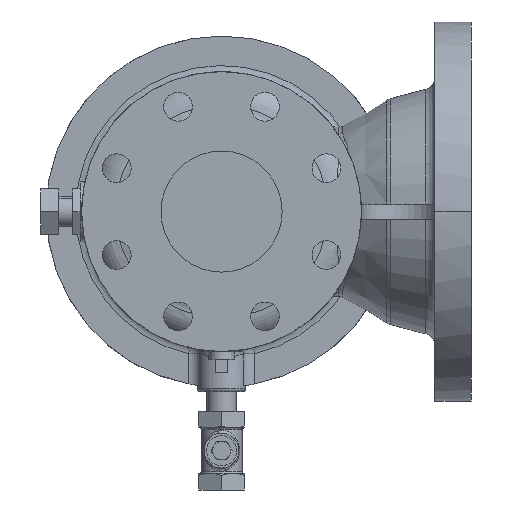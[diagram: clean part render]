
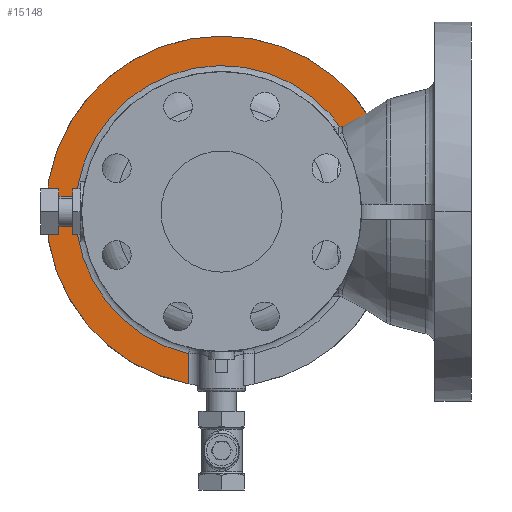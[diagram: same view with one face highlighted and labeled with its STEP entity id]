
A CAD part, front view. The second image highlights one B-rep face of the part: STEP entity #15148.
In plain terms, the highlighted planar face has unit normal (0, -1, 0).
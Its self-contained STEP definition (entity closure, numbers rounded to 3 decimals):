
#49 = AXIS2_PLACEMENT_3D ( 'NONE', #8849, #1178, #7612 ) ;
#331 = PLANE ( 'NONE',  #8434 ) ;
#812 = CARTESIAN_POINT ( 'NONE',  ( 96.37, 83., 5. ) ) ;
#855 = CIRCLE ( 'NONE', #49, 96.5 ) ;
#999 = EDGE_CURVE ( 'NONE', #11247, #13682, #2604, .T. ) ;
#1178 = DIRECTION ( 'NONE',  ( 0., 1., 0. ) ) ;
#1321 = VERTEX_POINT ( 'NONE', #812 ) ;
#1697 = CARTESIAN_POINT ( 'NONE',  ( -21.817, 83., -94.001 ) ) ;
#2604 = CIRCLE ( 'NONE', #6738, 116. ) ;
#2682 = ORIENTED_EDGE ( 'NONE', *, *, #8877, .F. ) ;
#2783 = VERTEX_POINT ( 'NONE', #3594 ) ;
#3211 = AXIS2_PLACEMENT_3D ( 'NONE', #6312, #15087, #11284 ) ;
#3594 = CARTESIAN_POINT ( 'NONE',  ( 115.892, 83., 5. ) ) ;
#4242 = ORIENTED_EDGE ( 'NONE', *, *, #8754, .F. ) ;
#4257 = VECTOR ( 'NONE', #13646, 1000. ) ;
#4550 = LINE ( 'NONE', #9850, #4257 ) ;
#4919 = ORIENTED_EDGE ( 'NONE', *, *, #6665, .T. ) ;
#6186 = CARTESIAN_POINT ( 'NONE',  ( 0., 83., 0. ) ) ;
#6312 = CARTESIAN_POINT ( 'NONE',  ( 0., 83., 0. ) ) ;
#6665 = EDGE_CURVE ( 'NONE', #12814, #1321, #855, .T. ) ;
#6692 = FACE_OUTER_BOUND ( 'NONE', #9704, .T. ) ;
#6738 = AXIS2_PLACEMENT_3D ( 'NONE', #6186, #13631, #9746 ) ;
#7144 = LINE ( 'NONE', #12199, #10858 ) ;
#7261 = ORIENTED_EDGE ( 'NONE', *, *, #10996, .T. ) ;
#7612 = DIRECTION ( 'NONE',  ( 0., 0., -1. ) ) ;
#8226 = DIRECTION ( 'NONE',  ( -1., 0., 0. ) ) ;
#8434 = AXIS2_PLACEMENT_3D ( 'NONE', #9014, #14225, #15544 ) ;
#8754 = EDGE_CURVE ( 'NONE', #2783, #1321, #7144, .T. ) ;
#8849 = CARTESIAN_POINT ( 'NONE',  ( 0., 83., 0. ) ) ;
#8877 = EDGE_CURVE ( 'NONE', #13682, #2783, #9039, .T. ) ;
#9014 = CARTESIAN_POINT ( 'NONE',  ( -116., 83., 0. ) ) ;
#9039 = CIRCLE ( 'NONE', #3211, 116. ) ;
#9442 = CARTESIAN_POINT ( 'NONE',  ( 0., 83., 116. ) ) ;
#9704 = EDGE_LOOP ( 'NONE', ( #4242, #2682, #10529, #7261, #4919 ) ) ;
#9746 = DIRECTION ( 'NONE',  ( 0., 0., 1. ) ) ;
#9850 = CARTESIAN_POINT ( 'NONE',  ( -21.817, 83., -95.185 ) ) ;
#10529 = ORIENTED_EDGE ( 'NONE', *, *, #999, .F. ) ;
#10858 = VECTOR ( 'NONE', #8226, 1000. ) ;
#10996 = EDGE_CURVE ( 'NONE', #11247, #12814, #4550, .T. ) ;
#11247 = VERTEX_POINT ( 'NONE', #12980 ) ;
#11284 = DIRECTION ( 'NONE',  ( 0., 0., 1. ) ) ;
#12199 = CARTESIAN_POINT ( 'NONE',  ( -116., 83., 5. ) ) ;
#12814 = VERTEX_POINT ( 'NONE', #1697 ) ;
#12980 = CARTESIAN_POINT ( 'NONE',  ( -21.817, 83., -113.93 ) ) ;
#13631 = DIRECTION ( 'NONE',  ( 0., 1., 0. ) ) ;
#13646 = DIRECTION ( 'NONE',  ( 0., 0., 1. ) ) ;
#13682 = VERTEX_POINT ( 'NONE', #9442 ) ;
#14225 = DIRECTION ( 'NONE',  ( 0., -1., 0. ) ) ;
#15087 = DIRECTION ( 'NONE',  ( 0., 1., 0. ) ) ;
#15148 = ADVANCED_FACE ( 'NONE', ( #6692 ), #331, .T. ) ;
#15544 = DIRECTION ( 'NONE',  ( 0., 0., -1. ) ) ;
